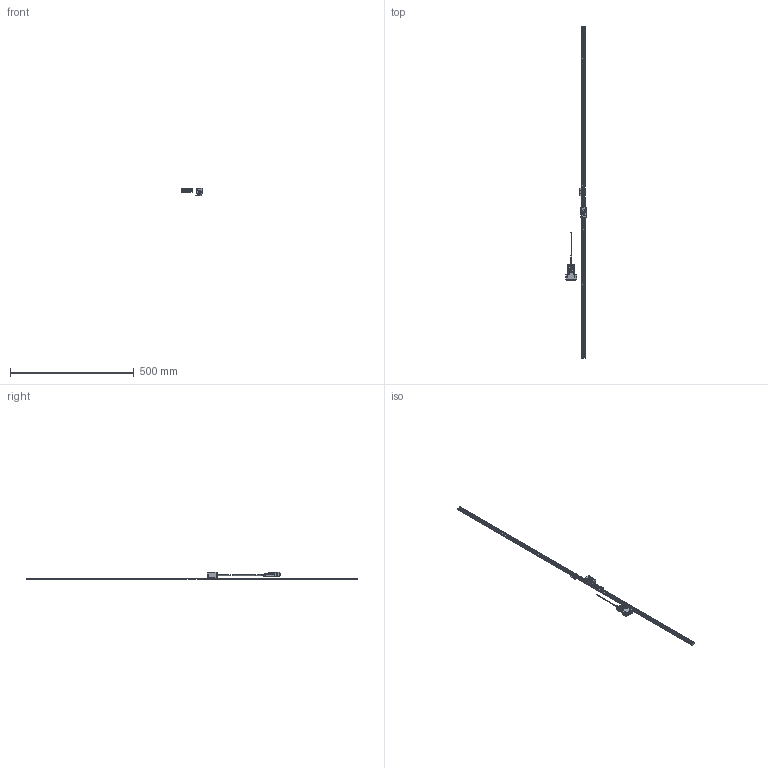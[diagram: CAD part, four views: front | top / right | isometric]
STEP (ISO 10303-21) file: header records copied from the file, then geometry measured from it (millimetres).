
FILE_DESCRIPTION(('Creo Elements/Direct Modeling STEP Export'),'2;1');
FILE_NAME('ST1300-1300F_G.stp','2022-08-16T10:39:36',(''),(''),'Creo Elements/Direct Modeling STEP processor for AP214 (Solid Model)','Creo Elements/Direct Modeling 18.1I 13-Aug-2016 (C) Parametric Technology GmbH','');
FILE_SCHEMA(('AUTOMOTIVE_DESIGN { 1 0 10303 214 1 1 1 1 }'));
Length unit declared in the file: millimetre
Products named in the file (4): Scale_1300; Detector_Head; Connector; ST1300-1300F_G
Assembly tree (3 placements, depth 2):
  ST1300-1300F_G
    Connector
    Detector_Head
    Scale_1300
Bounding box: 83 x 1340 x 30.1 mm (x, y, z)
Volume: 130159.1 mm3; surface area: 79509 mm2
Topology: 2 solids, 6 shells, 3545 faces, 9750 edges, 6357 vertices
Faces by surface type: plane 1664, cylinder 1547, extrusion 194, cone 87, torus 26, bspline 23, revolution 4
Entity records: 118061 total; most frequent: CARTESIAN_POINT 27309, ORIENTED_EDGE 19484, DIRECTION 18251, EDGE_CURVE 9738, VERTEX_POINT 6357, AXIS2_PLACEMENT_3D 6139, VECTOR 5967, LINE 5807
